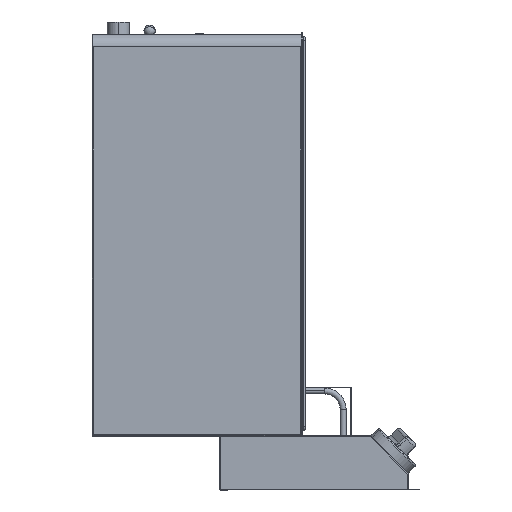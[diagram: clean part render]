
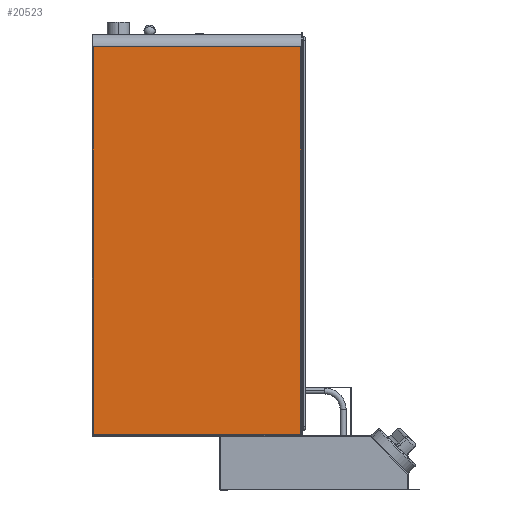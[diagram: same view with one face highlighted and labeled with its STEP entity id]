
A CAD part, left-side view. The second image highlights one B-rep face of the part: STEP entity #20523.
In plain terms, the highlighted planar face has unit normal (-1, 0, 0).
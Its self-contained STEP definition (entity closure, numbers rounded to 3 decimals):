
#743 = CARTESIAN_POINT ( 'NONE',  ( -330., 138.263, 1.737 ) ) ;
#3090 = CARTESIAN_POINT ( 'NONE',  ( -330., 0., 0. ) ) ;
#3258 = DIRECTION ( 'NONE',  ( 0., 0., -1. ) ) ;
#3939 = DIRECTION ( 'NONE',  ( 0., 1., 0. ) ) ;
#6024 = DIRECTION ( 'NONE',  ( 1., 0., 0. ) ) ;
#6866 = LINE ( 'NONE', #35003, #30961 ) ;
#8589 = EDGE_CURVE ( 'NONE', #30208, #16970, #6866, .T. ) ;
#9617 = CARTESIAN_POINT ( 'NONE',  ( -330., 138.263, 519. ) ) ;
#11373 = ORIENTED_EDGE ( 'NONE', *, *, #13593, .T. ) ;
#11721 = DIRECTION ( 'NONE',  ( 0., 1., 0. ) ) ;
#11756 = EDGE_CURVE ( 'NONE', #16147, #24872, #31475, .T. ) ;
#12289 = CARTESIAN_POINT ( 'NONE',  ( -330., -138.263, 1.737 ) ) ;
#13423 = VECTOR ( 'NONE', #11721, 1000. ) ;
#13593 = EDGE_CURVE ( 'NONE', #24872, #30208, #18047, .T. ) ;
#14067 = ORIENTED_EDGE ( 'NONE', *, *, #11756, .T. ) ;
#15327 = CARTESIAN_POINT ( 'NONE',  ( -330., -138.263, 519. ) ) ;
#15969 = CARTESIAN_POINT ( 'NONE',  ( -330., -138.263, 1.737 ) ) ;
#16147 = VERTEX_POINT ( 'NONE', #15969 ) ;
#16970 = VERTEX_POINT ( 'NONE', #743 ) ;
#18047 = LINE ( 'NONE', #23718, #21065 ) ;
#18673 = VECTOR ( 'NONE', #20872, 1000. ) ;
#18845 = AXIS2_PLACEMENT_3D ( 'NONE', #3090, #6024, #3258 ) ;
#19034 = PLANE ( 'NONE',  #18845 ) ;
#20299 = LINE ( 'NONE', #31623, #13423 ) ;
#20523 = ADVANCED_FACE ( 'NONE', ( #21779 ), #19034, .F. ) ;
#20872 = DIRECTION ( 'NONE',  ( 0., 0., 1. ) ) ;
#21065 = VECTOR ( 'NONE', #3939, 1000. ) ;
#21779 = FACE_OUTER_BOUND ( 'NONE', #33622, .T. ) ;
#23718 = CARTESIAN_POINT ( 'NONE',  ( -330., -140., 519. ) ) ;
#24872 = VERTEX_POINT ( 'NONE', #15327 ) ;
#26738 = ORIENTED_EDGE ( 'NONE', *, *, #31273, .F. ) ;
#27402 = ORIENTED_EDGE ( 'NONE', *, *, #8589, .T. ) ;
#29716 = DIRECTION ( 'NONE',  ( 0., 0., -1. ) ) ;
#30208 = VERTEX_POINT ( 'NONE', #9617 ) ;
#30961 = VECTOR ( 'NONE', #29716, 1000. ) ;
#31273 = EDGE_CURVE ( 'NONE', #16147, #16970, #20299, .T. ) ;
#31475 = LINE ( 'NONE', #12289, #18673 ) ;
#31623 = CARTESIAN_POINT ( 'NONE',  ( -330., 140., 1.737 ) ) ;
#33622 = EDGE_LOOP ( 'NONE', ( #14067, #11373, #27402, #26738 ) ) ;
#35003 = CARTESIAN_POINT ( 'NONE',  ( -330., 138.263, 519. ) ) ;
